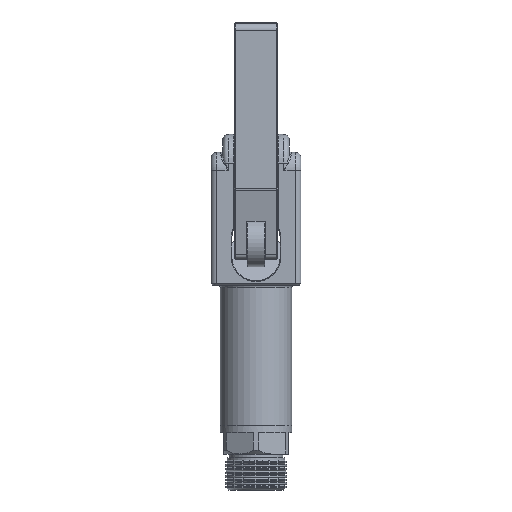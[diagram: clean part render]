
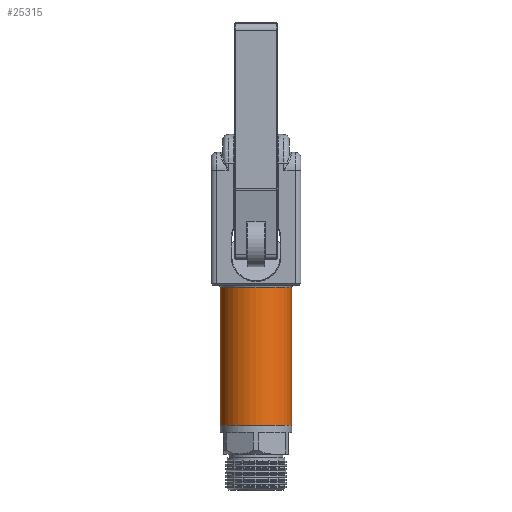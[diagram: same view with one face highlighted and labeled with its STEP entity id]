
A CAD part, front view. The second image highlights one B-rep face of the part: STEP entity #25315.
In plain terms, the highlighted cylindrical face has radius 10 mm (diameter 20 mm), a partial arc.
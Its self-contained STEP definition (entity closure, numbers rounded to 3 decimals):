
#936 = ORIENTED_EDGE ( 'NONE', *, *, #9682, .T. ) ;
#981 = VERTEX_POINT ( 'NONE', #20924 ) ;
#1769 = VERTEX_POINT ( 'NONE', #26851 ) ;
#2142 = CIRCLE ( 'NONE', #16909, 10. ) ;
#2800 = VERTEX_POINT ( 'NONE', #12843 ) ;
#3605 = EDGE_LOOP ( 'NONE', ( #12359, #6678, #18136, #936 ) ) ;
#3839 = FACE_OUTER_BOUND ( 'NONE', #3605, .T. ) ;
#4364 = EDGE_CURVE ( 'NONE', #981, #14897, #2142, .T. ) ;
#4763 = DIRECTION ( 'NONE',  ( 0., 0., -1. ) ) ;
#6678 = ORIENTED_EDGE ( 'NONE', *, *, #4364, .T. ) ;
#7780 = DIRECTION ( 'NONE',  ( 0., 0., 1. ) ) ;
#8164 = CARTESIAN_POINT ( 'NONE',  ( -10.142, 1.293, 79.5 ) ) ;
#9682 = EDGE_CURVE ( 'NONE', #2800, #1769, #21901, .T. ) ;
#12359 = ORIENTED_EDGE ( 'NONE', *, *, #21555, .F. ) ;
#12426 = DIRECTION ( 'NONE',  ( 0., 0., -1. ) ) ;
#12843 = CARTESIAN_POINT ( 'NONE',  ( -10.142, 1.293, 40.5 ) ) ;
#14337 = DIRECTION ( 'NONE',  ( 0., 0., -1. ) ) ;
#14897 = VERTEX_POINT ( 'NONE', #23207 ) ;
#15828 = DIRECTION ( 'NONE',  ( 0., 0., -1. ) ) ;
#16909 = AXIS2_PLACEMENT_3D ( 'NONE', #20230, #4763, #22839 ) ;
#18136 = ORIENTED_EDGE ( 'NONE', *, *, #31172, .T. ) ;
#19394 = CARTESIAN_POINT ( 'NONE',  ( 9.858, 1.293, 79.5 ) ) ;
#20218 = VECTOR ( 'NONE', #14337, 1000. ) ;
#20230 = CARTESIAN_POINT ( 'NONE',  ( -0.142, 1.293, 79. ) ) ;
#20924 = CARTESIAN_POINT ( 'NONE',  ( 9.858, 1.293, 79. ) ) ;
#21555 = EDGE_CURVE ( 'NONE', #981, #1769, #27131, .T. ) ;
#21901 = CIRCLE ( 'NONE', #26110, 10. ) ;
#22833 = CYLINDRICAL_SURFACE ( 'NONE', #25228, 10. ) ;
#22839 = DIRECTION ( 'NONE',  ( 1., 0., 0. ) ) ;
#23207 = CARTESIAN_POINT ( 'NONE',  ( -10.142, 1.293, 79. ) ) ;
#23217 = VECTOR ( 'NONE', #15828, 1000. ) ;
#23247 = CARTESIAN_POINT ( 'NONE',  ( -0.142, 1.293, 40.5 ) ) ;
#25228 = AXIS2_PLACEMENT_3D ( 'NONE', #27918, #12426, #25321 ) ;
#25315 = ADVANCED_FACE ( 'NONE', ( #3839 ), #22833, .T. ) ;
#25321 = DIRECTION ( 'NONE',  ( -1., 0., 0. ) ) ;
#25854 = DIRECTION ( 'NONE',  ( 0., -1., 0. ) ) ;
#26110 = AXIS2_PLACEMENT_3D ( 'NONE', #23247, #7780, #25854 ) ;
#26851 = CARTESIAN_POINT ( 'NONE',  ( 9.858, 1.293, 40.5 ) ) ;
#27131 = LINE ( 'NONE', #19394, #20218 ) ;
#27918 = CARTESIAN_POINT ( 'NONE',  ( -0.142, 1.293, 79.5 ) ) ;
#30108 = LINE ( 'NONE', #8164, #23217 ) ;
#31172 = EDGE_CURVE ( 'NONE', #14897, #2800, #30108, .T. ) ;
